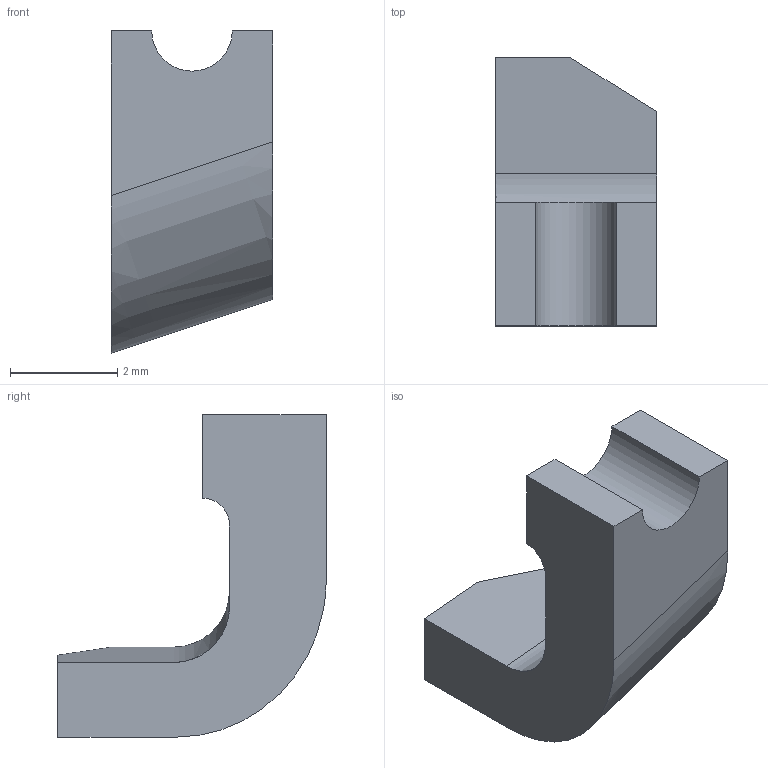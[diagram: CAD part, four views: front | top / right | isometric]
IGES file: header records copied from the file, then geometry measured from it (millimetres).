
Start section:  PTC IGES file: opt_3.igs
Global section: file name: opt_3.igs; native system: Pro/ENGINEER by Parametric Technology Corporation; preprocessor: 9604; author: stan; date: 960604.085408; units: millimetre
Bounding box: 3 x 5 x 6 mm (x, y, z)
Surface area: 84.3 mm2 (no closed solid volume)
Topology: 0 solids, 0 shells, 15 faces, 78 edges, 78 vertices
Faces by surface type: bspline 11, revolution 4
